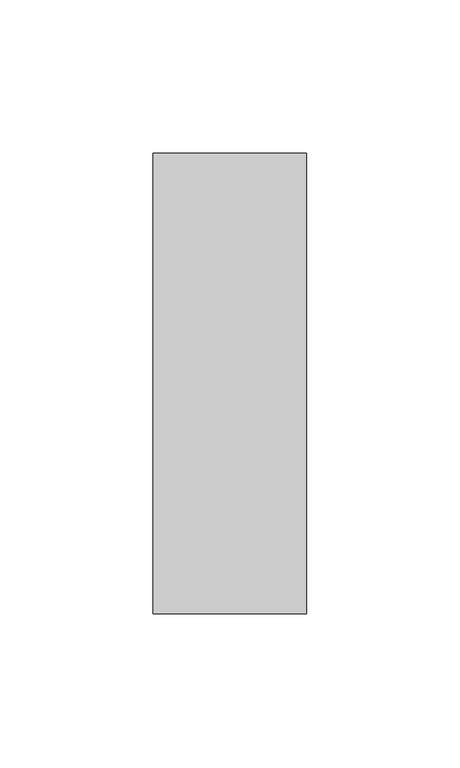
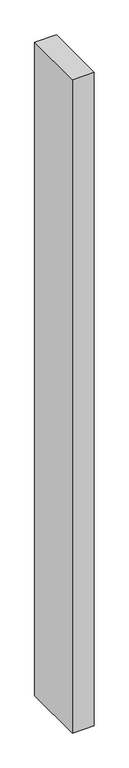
"""IFC4 building model written with IfcOpenShell, lengths in millimetres: member geometry, Прямоугольный импост : 50х150мм."""

import ifcopenshell
import ifcopenshell.guid

model = None  # the IFC model being written
_history = None  # IfcOwnerHistory: only IFC2X3 demands one
_inside = {}  # id of a spatial element -> (the spatial element, [elements in it])
_under = {}  # id of a project, library or spatial element -> (it, [spatial elements below it])
_declared = {}  # id of a project -> (the project, [libraries it declares])
_typed = {}  # id of a type object -> (the type object, [elements of that type])
_made_of = {}  # id of a material, layer set ... -> (it, [elements and type objects made of it])


def new_model(schema):
    """Start an empty IFC model of exactly this schema.

    Asked for "IFC4X3", IfcOpenShell would pick the latest addendum, in which some entities
    have other attributes; the version numbers below select the first issue.
    IFC2X3 requires an IfcOwnerHistory on every rooted entity: one is made here for all.
    """
    global model, _history
    if schema == "IFC4X3":
        model = ifcopenshell.file(schema_version=(4, 3, 0, 0))
    else:
        model = ifcopenshell.file(schema=schema)
    _inside.clear()
    _under.clear()
    _declared.clear()
    _typed.clear()
    _made_of.clear()
    _history = None
    if model.schema == "IFC2X3":
        org = make("IfcOrganization", Name="unknown")
        user = make(
            "IfcPersonAndOrganization",
            ThePerson=make("IfcPerson", FamilyName="unknown"),
            TheOrganization=org,
        )
        app = make(
            "IfcApplication",
            ApplicationDeveloper=org,
            Version="unknown",
            ApplicationFullName="unknown",
            ApplicationIdentifier="unknown",
        )
        _history = make(
            "IfcOwnerHistory",
            OwningUser=user,
            OwningApplication=app,
            ChangeAction="ADDED",
            CreationDate=0,
        )
    return model


def make(cls, **values):
    """One entity of the class cls with the attributes given. An attribute that is None is left unset."""
    return model.create_entity(
        cls, **{name: value for name, value in values.items() if value is not None}
    )


def rooted(cls, **values):
    """An entity with a GlobalId (a new one), such as an element, a storey or a relation."""
    return make(cls, GlobalId=ifcopenshell.guid.new(), OwnerHistory=_history, **values)


def si_unit(unit_type, name, prefix=None):
    """IfcSIUnit, for example si_unit("LENGTHUNIT", "METRE", prefix="MILLI")."""
    return make("IfcSIUnit", UnitType=unit_type, Prefix=prefix, Name=name)


def assignment(units):
    """IfcUnitAssignment: the units of a project."""
    return None if units is None else make("IfcUnitAssignment", Units=units)


def point(xyz):
    """IfcCartesianPoint."""
    return None if xyz is None else make("IfcCartesianPoint", Coordinates=xyz)


def direction(xyz):
    """IfcDirection."""
    return None if xyz is None else make("IfcDirection", DirectionRatios=xyz)


def frame(location, z_axis=None, x_axis=None):
    """IfcAxis2Placement3D, a coordinate frame: its origin and axes. An axis left out is left unset."""
    return make(
        "IfcAxis2Placement3D",
        Location=point(location),
        Axis=direction(z_axis),
        RefDirection=direction(x_axis),
    )


def origin():
    """The frame at (0, 0, 0) with its axes left unset."""
    return frame((0.0, 0.0, 0.0))


def place(relative_to, where):
    """IfcLocalPlacement: puts the frame where relative to a parent placement (None: the world)."""
    return make(
        "IfcLocalPlacement", PlacementRelTo=relative_to, RelativePlacement=where
    )


def context(
    kind, dimensions, precision=None, world=None, true_north=None, identifier=None
):
    """IfcGeometricRepresentationContext, for example the 3D "Model" context."""
    return make(
        "IfcGeometricRepresentationContext",
        ContextIdentifier=identifier,
        ContextType=kind,
        CoordinateSpaceDimension=dimensions,
        Precision=precision,
        WorldCoordinateSystem=world,
        TrueNorth=true_north,
    )


def project(units=None, contexts=None):
    """IfcProject with its units and contexts."""
    return rooted(
        "IfcProject",
        Name="project",
        RepresentationContexts=contexts,
        UnitsInContext=assignment(units),
    )


def spatial(cls, under=None, at=None, **own):
    """A site, building, storey or space (cls), placed at a placement, below another one or the project."""
    s = rooted(cls, ObjectPlacement=at, **own)
    if under is not None:
        _under.setdefault(under.id(), (under, []))[1].append(s)
    return s


def polyline(points):
    """IfcPolyline through the points."""
    return make("IfcPolyline", Points=[point(p) for p in points])


def outline(outer, holes=None, kind="AREA"):
    """IfcArbitraryClosedProfileDef: a profile drawn as a closed curve; with holes, ...WithVoids."""
    if holes is None:
        return make("IfcArbitraryClosedProfileDef", ProfileType=kind, OuterCurve=outer)
    return make(
        "IfcArbitraryProfileDefWithVoids",
        ProfileType=kind,
        OuterCurve=outer,
        InnerCurves=holes,
    )


def extrude(swept, where, along, depth):
    """IfcExtrudedAreaSolid: the profile swept, set in the frame where, extruded along a direction by depth."""
    return make(
        "IfcExtrudedAreaSolid",
        SweptArea=swept,
        Position=where,
        ExtrudedDirection=direction(along),
        Depth=depth,
    )


def shape(context_of_items, identifier, shape_type, items):
    """IfcShapeRepresentation: the items that make up one representation, for example the "Body"."""
    return make(
        "IfcShapeRepresentation",
        ContextOfItems=context_of_items,
        RepresentationIdentifier=identifier,
        RepresentationType=shape_type,
        Items=items,
    )


def source(mapping_origin, context_of_items, identifier, shape_type, items):
    """IfcRepresentationMap: a shape defined once, which mapped items show again and again."""
    return make(
        "IfcRepresentationMap",
        MappingOrigin=mapping_origin,
        MappedRepresentation=shape(context_of_items, identifier, shape_type, items),
    )


def transform(
    local_origin,
    x_axis=None,
    y_axis=None,
    z_axis=None,
    scale=None,
    scale2=None,
    scale3=None,
    uniform=True,
):
    """IfcCartesianTransformationOperator3D, or its non-uniform kind. x_axis, y_axis, z_axis: its Axis1, 2, 3."""
    if uniform:
        return make(
            "IfcCartesianTransformationOperator3D",
            Axis1=direction(x_axis),
            Axis2=direction(y_axis),
            LocalOrigin=point(local_origin),
            Scale=scale,
            Axis3=direction(z_axis),
        )
    return make(
        "IfcCartesianTransformationOperator3DnonUniform",
        Axis1=direction(x_axis),
        Axis2=direction(y_axis),
        LocalOrigin=point(local_origin),
        Scale=scale,
        Axis3=direction(z_axis),
        Scale2=scale2,
        Scale3=scale3,
    )


def mapped(mapping_source, mapping_target):
    """IfcMappedItem: shows the shape of a source again, moved by a transform."""
    return make(
        "IfcMappedItem", MappingSource=mapping_source, MappingTarget=mapping_target
    )


def made_of(thing, what):
    """Note that an element or type object is made of a material, layer set ...; save() writes the relation."""
    if what is not None:
        _made_of.setdefault(what.id(), (what, []))[1].append(thing)
    return thing


def element(
    cls,
    number,
    at=None,
    inside=None,
    cuts=None,
    type_object=None,
    material=None,
    context=None,
    identifier="Body",
    shape_type=None,
    held_by="IfcProductDefinitionShape",
    body=None,
    shapes=None,
    **own,
):
    """One element of the class cls, such as IfcWall. Its Tag is "e" and its number.

    at: its placement. inside: the storey or other place that contains it. cuts: it is an
    opening in that element (IfcRelVoidsElement). A single representation is given by context,
    identifier, shape_type and body (its items); several are given by shapes. held_by: the class
    of the entity that holds the representations. save() writes the other relations.
    """
    e = rooted(cls, Tag="e%d" % number, ObjectPlacement=at, **own)
    if body is not None:
        shapes = [shape(context, identifier, shape_type, body)]
    if shapes is not None:
        e.Representation = make(held_by, Representations=shapes)
    if inside is not None:
        _inside.setdefault(inside.id(), (inside, []))[1].append(e)
    if cuts is not None:
        rooted(
            "IfcRelVoidsElement", RelatingBuildingElement=cuts, RelatedOpeningElement=e
        )
    if type_object is not None:
        _typed.setdefault(type_object.id(), (type_object, []))[1].append(e)
    return made_of(e, material)


def aggregate(whole, parts):
    """IfcRelAggregates: a whole, such as a stair, and the parts it consists of."""
    return rooted("IfcRelAggregates", RelatingObject=whole, RelatedObjects=parts)


def save(model, path):
    """Write the relations noted so far, then the file.

    IfcRelAggregates (storeys below a building ...), IfcRelContainedInSpatialStructure (elements
    in a storey), IfcRelDefinesByType, IfcRelAssociatesMaterial and IfcRelDeclares: one each for
    every whole, place, type object, material and project.
    """
    for whole, parts in _under.values():
        aggregate(whole, parts)
    for where, things in _inside.values():
        rooted(
            "IfcRelContainedInSpatialStructure",
            RelatedElements=things,
            RelatingStructure=where,
        )
    for kind, things in _typed.values():
        rooted("IfcRelDefinesByType", RelatedObjects=things, RelatingType=kind)
    for what, things in _made_of.values():
        rooted("IfcRelAssociatesMaterial", RelatedObjects=things, RelatingMaterial=what)
    for by, libraries in _declared.values():
        rooted("IfcRelDeclares", RelatingContext=by, RelatedDefinitions=libraries)
    model.write(path)


def member_94daa18e(model_context):
    return source(origin(), model_context, "Body", "SweptSolid", [
        extrude(outline(polyline([(0.0, 75.0), (0.0, -75.0), (-50.0, -75.0), (-50.0, 75.0), (0.0, 75.0)])), frame((0.0, 0.0, -1588.6336859), z_axis=(0.0, 0.0, 1.0), x_axis=(1.0, 0.0, 0.0)), (0.0, 0.0, 1.0), 1588.6336859),
    ])


if __name__ == "__main__":
    model = new_model("IFC4")
    model_context = context("Model", 3, world=origin())
    ifc_project = project(units=[si_unit("LENGTHUNIT", "METRE", prefix="MILLI")], contexts=[model_context])
    site = spatial("IfcSite", under=ifc_project)
    building = spatial("IfcBuilding", under=site)
    placement = place(None, origin())
    member_shape = member_94daa18e(model_context)
    element("IfcMember", 1, ObjectType="Прямоугольный импост : 50х150мм", at=placement, inside=building, context=model_context, shape_type="MappedRepresentation", body=[
        mapped(member_shape, transform((0.0, 0.0, 0.0), x_axis=(1.0, 0.0, 0.0), y_axis=(0.0, 1.0, 0.0), z_axis=(0.0, 0.0, 1.0))),
    ])
    save(model, "model.ifc")
